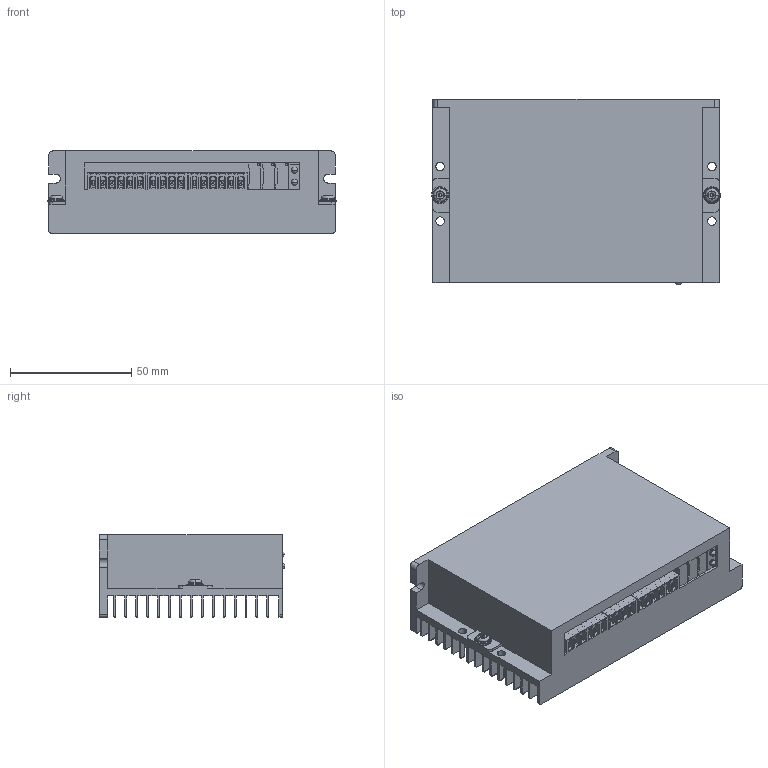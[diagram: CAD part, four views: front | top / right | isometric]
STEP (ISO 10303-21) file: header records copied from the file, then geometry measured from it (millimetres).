
FILE_DESCRIPTION (( 'STEP AP214' ), '1' );
FILE_NAME ('dm805_ai.STEP', '2019-08-08T10:37:05', ( 'hwtest' ), ( 'Microsoft' ), 'SwSTEP 2.0', 'SolidWorks 2014', '' );
FILE_SCHEMA (( 'AUTOMOTIVE_DESIGN' ));
Length unit declared in the file: millimetre
Products named in the file (1): dm805_ai
Bounding box: 119 x 76.5 x 34 mm (x, y, z)
Surface area: 91977.1 mm2 (no closed solid volume)
Topology: 0 solids, 8 shells, 1398 faces, 3828 edges, 2498 vertices
Faces by surface type: plane 1144, cylinder 195, torus 25, cone 16, bspline 14, sphere 4
Entity records: 58481 total; most frequent: CARTESIAN_POINT 16690, ORIENTED_EDGE 7616, DIRECTION 6431, EDGE_CURVE 3824, VECTOR 2977, LINE 2977, VERTEX_POINT 2498, AXIS2_PLACEMENT_3D 1727
